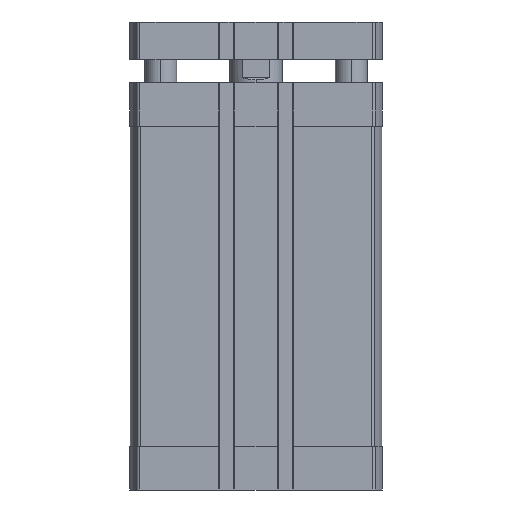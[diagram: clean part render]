
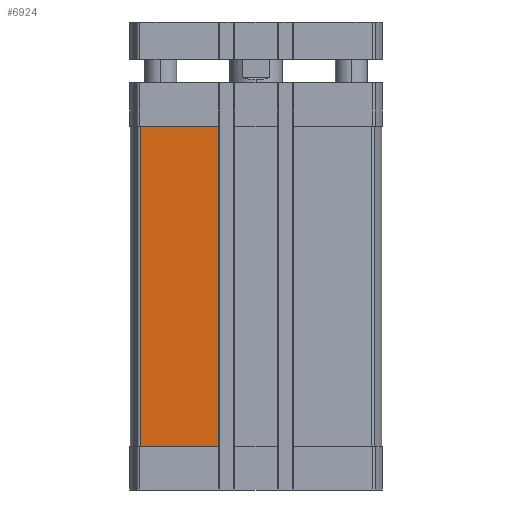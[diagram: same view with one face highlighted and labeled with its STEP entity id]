
A CAD part, front view. The second image highlights one B-rep face of the part: STEP entity #6924.
In plain terms, the highlighted planar face has unit normal (0, -1, 0) as drawn and (-1, 0, 0) by its records, which use the part's own axes.
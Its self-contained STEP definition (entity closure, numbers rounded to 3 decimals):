
#48 = EDGE_CURVE ( 'NONE', #7252, #20421, #9675, .T. ) ;
#50 = DIRECTION ( 'NONE',  ( 0., 0., 1. ) ) ;
#1903 = CARTESIAN_POINT ( 'NONE',  ( -47.5, 43.743, -137.5 ) ) ;
#2881 = DIRECTION ( 'NONE',  ( 0., -1., 0. ) ) ;
#3970 = CARTESIAN_POINT ( 'NONE',  ( -47.5, 43.743, -137.5 ) ) ;
#4573 = EDGE_LOOP ( 'NONE', ( #7630, #16595, #11651, #18564 ) ) ;
#6924 = ADVANCED_FACE ( 'NONE', ( #14895 ), #20129, .T. ) ;
#7252 = VERTEX_POINT ( 'NONE', #10755 ) ;
#7344 = EDGE_CURVE ( 'NONE', #22975, #7252, #16027, .T. ) ;
#7630 = ORIENTED_EDGE ( 'NONE', *, *, #48, .T. ) ;
#7807 = CARTESIAN_POINT ( 'NONE',  ( -47.5, 43.743, -16.5 ) ) ;
#8303 = AXIS2_PLACEMENT_3D ( 'NONE', #14477, #21984, #11015 ) ;
#9028 = CARTESIAN_POINT ( 'NONE',  ( -47.5, 0., -16.5 ) ) ;
#9675 = LINE ( 'NONE', #3970, #18827 ) ;
#10098 = EDGE_CURVE ( 'NONE', #16366, #22975, #17371, .T. ) ;
#10755 = CARTESIAN_POINT ( 'NONE',  ( -47.5, 43.743, -137.5 ) ) ;
#10881 = DIRECTION ( 'NONE',  ( 0., 1., 0. ) ) ;
#11015 = DIRECTION ( 'NONE',  ( 0., 0., 1. ) ) ;
#11198 = VECTOR ( 'NONE', #12962, 1000. ) ;
#11651 = ORIENTED_EDGE ( 'NONE', *, *, #10098, .T. ) ;
#12933 = LINE ( 'NONE', #12942, #20976 ) ;
#12942 = CARTESIAN_POINT ( 'NONE',  ( -47.5, 14.3, -137.5 ) ) ;
#12962 = DIRECTION ( 'NONE',  ( 0., 0., -1. ) ) ;
#14477 = CARTESIAN_POINT ( 'NONE',  ( -47.5, 43.743, -137.5 ) ) ;
#14521 = EDGE_CURVE ( 'NONE', #20421, #16366, #12933, .T. ) ;
#14556 = CARTESIAN_POINT ( 'NONE',  ( -47.5, 14.3, -137.5 ) ) ;
#14895 = FACE_OUTER_BOUND ( 'NONE', #4573, .T. ) ;
#16027 = LINE ( 'NONE', #1903, #11198 ) ;
#16366 = VERTEX_POINT ( 'NONE', #17690 ) ;
#16595 = ORIENTED_EDGE ( 'NONE', *, *, #14521, .T. ) ;
#17371 = LINE ( 'NONE', #9028, #17949 ) ;
#17690 = CARTESIAN_POINT ( 'NONE',  ( -47.5, 14.3, -16.5 ) ) ;
#17949 = VECTOR ( 'NONE', #10881, 1000. ) ;
#18564 = ORIENTED_EDGE ( 'NONE', *, *, #7344, .T. ) ;
#18827 = VECTOR ( 'NONE', #2881, 1000. ) ;
#20129 = PLANE ( 'NONE',  #8303 ) ;
#20421 = VERTEX_POINT ( 'NONE', #14556 ) ;
#20976 = VECTOR ( 'NONE', #50, 1000. ) ;
#21984 = DIRECTION ( 'NONE',  ( -1., 0., 0. ) ) ;
#22975 = VERTEX_POINT ( 'NONE', #7807 ) ;
